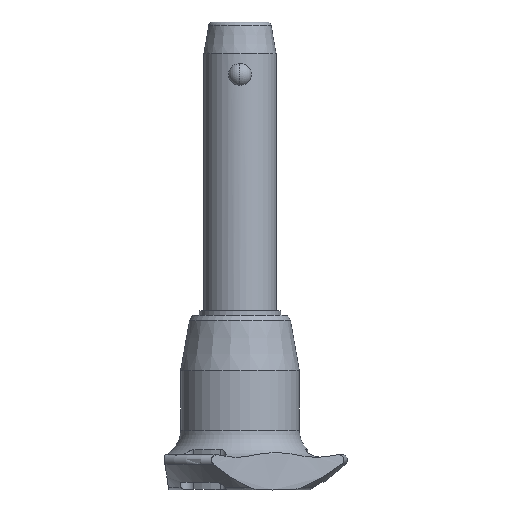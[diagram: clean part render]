
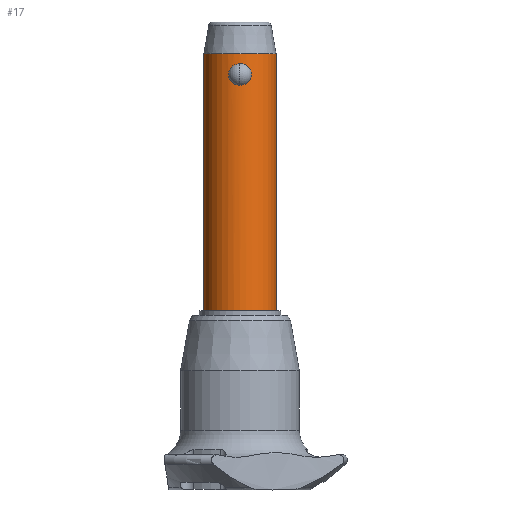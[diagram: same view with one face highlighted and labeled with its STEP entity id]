
A CAD part, front view. The second image highlights one B-rep face of the part: STEP entity #17.
In plain terms, the highlighted cylindrical face has radius 8 mm (diameter 16 mm), a partial arc.
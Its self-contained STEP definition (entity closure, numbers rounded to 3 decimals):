
#17 = ADVANCED_FACE ( 'NONE', ( #894, #85 ), #679, .T. ) ;
#63 = CARTESIAN_POINT ( 'NONE',  ( 1.105, -7.925, 0.226 ) ) ;
#75 = AXIS2_PLACEMENT_3D ( 'NONE', #742, #1890, #299 ) ;
#79 = CARTESIAN_POINT ( 'NONE',  ( 2.46, -7.613, 1.742 ) ) ;
#85 = FACE_BOUND ( 'NONE', #2105, .T. ) ;
#93 = CARTESIAN_POINT ( 'NONE',  ( 1.253, -7.903, 4.478 ) ) ;
#98 = ORIENTED_EDGE ( 'NONE', *, *, #176, .F. ) ;
#168 = DIRECTION ( 'NONE',  ( 0., 0., 1. ) ) ;
#176 = EDGE_CURVE ( 'NONE', #511, #2234, #354, .T. ) ;
#193 = CARTESIAN_POINT ( 'NONE',  ( -1.658, -7.827, 4.216 ) ) ;
#208 = CARTESIAN_POINT ( 'NONE',  ( -2.411, -7.628, 1.592 ) ) ;
#221 = CARTESIAN_POINT ( 'NONE',  ( -1.896, -7.773, 4.001 ) ) ;
#226 = DIRECTION ( 'NONE',  ( 0., 0., 1. ) ) ;
#299 = DIRECTION ( 'NONE',  ( 1., 0., 0. ) ) ;
#318 = DIRECTION ( 'NONE',  ( 1., 0., 0. ) ) ;
#328 = CARTESIAN_POINT ( 'NONE',  ( 2.004, -7.746, 0.894 ) ) ;
#338 = CARTESIAN_POINT ( 'NONE',  ( 0.326, -7.995, 4.761 ) ) ;
#354 = LINE ( 'NONE', #841, #2246 ) ;
#392 = CARTESIAN_POINT ( 'NONE',  ( -2.529, -7.59, 2.716 ) ) ;
#421 = CARTESIAN_POINT ( 'NONE',  ( -1.527, -7.854, 4.313 ) ) ;
#438 = CARTESIAN_POINT ( 'NONE',  ( -0.326, -7.995, 4.761 ) ) ;
#496 = DIRECTION ( 'NONE',  ( 1., 0., 0. ) ) ;
#511 = VERTEX_POINT ( 'NONE', #2287 ) ;
#535 = ORIENTED_EDGE ( 'NONE', *, *, #1341, .F. ) ;
#546 = CARTESIAN_POINT ( 'NONE',  ( 2.529, -7.59, 2.71 ) ) ;
#567 = EDGE_CURVE ( 'NONE', #2219, #2753, #2873, .T. ) ;
#630 = CARTESIAN_POINT ( 'NONE',  ( -2.546, -7.584, 2.553 ) ) ;
#639 = ORIENTED_EDGE ( 'NONE', *, *, #1012, .T. ) ;
#640 = CARTESIAN_POINT ( 'NONE',  ( -1.252, -7.903, 4.479 ) ) ;
#651 = CARTESIAN_POINT ( 'NONE',  ( -2.016, -7.746, 0.883 ) ) ;
#679 = CYLINDRICAL_SURFACE ( 'NONE', #750, 8. ) ;
#734 = ORIENTED_EDGE ( 'NONE', *, *, #1534, .T. ) ;
#742 = CARTESIAN_POINT ( 'NONE',  ( 0., 0., -50. ) ) ;
#750 = AXIS2_PLACEMENT_3D ( 'NONE', #1863, #2736, #318 ) ;
#770 = CARTESIAN_POINT ( 'NONE',  ( 0.804, -7.961, 4.661 ) ) ;
#783 = CARTESIAN_POINT ( 'NONE',  ( 1.894, -7.773, 0.773 ) ) ;
#786 = CARTESIAN_POINT ( 'NONE',  ( 0., -8., 0. ) ) ;
#841 = CARTESIAN_POINT ( 'NONE',  ( -8., 0., -50. ) ) ;
#856 = CARTESIAN_POINT ( 'NONE',  ( -2.547, -7.584, 2.229 ) ) ;
#882 = CARTESIAN_POINT ( 'NONE',  ( -1.107, -7.924, 4.548 ) ) ;
#891 = B_SPLINE_CURVE_WITH_KNOTS ( 'NONE', 3,
 ( #2129, #1703, #438, #2657, #1769, #882, #640, #421, #193, #221, #1742, #2198, #1111, #1524, #1064, #392, #630, #856, #1568, #2597, #208, #2186, #651, #2613, #1078, #1538, #1953, #2442, #2845, #1943 ),
 .UNSPECIFIED., .F., .F.,
 ( 4, 2, 2, 2, 2, 2, 2, 2, 2, 2, 2, 2, 2, 2, 4 ),
 ( 0., 0., 0.001, 0.001, 0.002, 0.002, 0.003, 0.003, 0.004, 0.004, 0.005, 0.006, 0.006, 0.007, 0.008 ),
 .UNSPECIFIED. ) ;
#894 = FACE_OUTER_BOUND ( 'NONE', #2407, .T. ) ;
#945 = CARTESIAN_POINT ( 'NONE',  ( 2.211, -7.69, 3.626 ) ) ;
#963 = CARTESIAN_POINT ( 'NONE',  ( 2.546, -7.584, 2.22 ) ) ;
#1012 = EDGE_CURVE ( 'NONE', #1415, #2568, #2477, .T. ) ;
#1064 = CARTESIAN_POINT ( 'NONE',  ( -2.459, -7.613, 3.036 ) ) ;
#1078 = CARTESIAN_POINT ( 'NONE',  ( -1.53, -7.854, 0.464 ) ) ;
#1111 = CARTESIAN_POINT ( 'NONE',  ( -2.276, -7.67, 3.482 ) ) ;
#1122 = CARTESIAN_POINT ( 'NONE',  ( 0.164, -8., 4.775 ) ) ;
#1137 = VECTOR ( 'NONE', #226, 1000. ) ;
#1167 = CARTESIAN_POINT ( 'NONE',  ( 1.529, -7.854, 0.463 ) ) ;
#1196 = CARTESIAN_POINT ( 'NONE',  ( 0.324, -8., 0. ) ) ;
#1218 = CIRCLE ( 'NONE', #1738, 8. ) ;
#1239 = CARTESIAN_POINT ( 'NONE',  ( -8., 0., 7. ) ) ;
#1341 = EDGE_CURVE ( 'NONE', #2753, #2219, #891, .T. ) ;
#1415 = VERTEX_POINT ( 'NONE', #2273 ) ;
#1451 = CARTESIAN_POINT ( 'NONE',  ( 2.275, -7.67, 1.291 ) ) ;
#1464 = CARTESIAN_POINT ( 'NONE',  ( 2.194, -7.694, 1.153 ) ) ;
#1524 = CARTESIAN_POINT ( 'NONE',  ( -2.408, -7.629, 3.189 ) ) ;
#1534 = EDGE_CURVE ( 'NONE', #2568, #2234, #1218, .T. ) ;
#1538 = CARTESIAN_POINT ( 'NONE',  ( -1.254, -7.902, 0.297 ) ) ;
#1568 = CARTESIAN_POINT ( 'NONE',  ( -2.529, -7.59, 2.064 ) ) ;
#1574 = CARTESIAN_POINT ( 'NONE',  ( 8., 0., -50. ) ) ;
#1641 = CARTESIAN_POINT ( 'NONE',  ( 2.016, -7.746, 3.891 ) ) ;
#1656 = CARTESIAN_POINT ( 'NONE',  ( 0., -8., 0. ) ) ;
#1675 = CARTESIAN_POINT ( 'NONE',  ( 1.657, -7.827, 0.558 ) ) ;
#1703 = CARTESIAN_POINT ( 'NONE',  ( -0.164, -8., 4.775 ) ) ;
#1738 = AXIS2_PLACEMENT_3D ( 'NONE', #2729, #2717, #496 ) ;
#1742 = CARTESIAN_POINT ( 'NONE',  ( -2.003, -7.746, 3.882 ) ) ;
#1769 = CARTESIAN_POINT ( 'NONE',  ( -0.803, -7.961, 4.661 ) ) ;
#1842 = CARTESIAN_POINT ( 'NONE',  ( 2.408, -7.629, 1.586 ) ) ;
#1858 = CARTESIAN_POINT ( 'NONE',  ( 2.461, -7.612, 3.027 ) ) ;
#1863 = CARTESIAN_POINT ( 'NONE',  ( 0., 0., -50. ) ) ;
#1890 = DIRECTION ( 'NONE',  ( 0., 0., -1. ) ) ;
#1899 = CARTESIAN_POINT ( 'NONE',  ( 1.252, -7.903, 0.296 ) ) ;
#1906 = ORIENTED_EDGE ( 'NONE', *, *, #2117, .F. ) ;
#1933 = CIRCLE ( 'NONE', #75, 8. ) ;
#1943 = CARTESIAN_POINT ( 'NONE',  ( 0., -8., 0. ) ) ;
#1953 = CARTESIAN_POINT ( 'NONE',  ( -1.106, -7.925, 0.226 ) ) ;
#2088 = CARTESIAN_POINT ( 'NONE',  ( 1.529, -7.854, 4.312 ) ) ;
#2105 = EDGE_LOOP ( 'NONE', ( #535, #2690 ) ) ;
#2117 = EDGE_CURVE ( 'NONE', #1415, #511, #1933, .T. ) ;
#2129 = CARTESIAN_POINT ( 'NONE',  ( 0., -8., 4.775 ) ) ;
#2143 = CARTESIAN_POINT ( 'NONE',  ( 0., -8., 4.775 ) ) ;
#2186 = CARTESIAN_POINT ( 'NONE',  ( -2.211, -7.69, 1.148 ) ) ;
#2198 = CARTESIAN_POINT ( 'NONE',  ( -2.193, -7.694, 3.623 ) ) ;
#2219 = VERTEX_POINT ( 'NONE', #786 ) ;
#2224 = CARTESIAN_POINT ( 'NONE',  ( 8., 0., 7. ) ) ;
#2234 = VERTEX_POINT ( 'NONE', #1239 ) ;
#2246 = VECTOR ( 'NONE', #168, 1000. ) ;
#2273 = CARTESIAN_POINT ( 'NONE',  ( 8., 0., -50. ) ) ;
#2287 = CARTESIAN_POINT ( 'NONE',  ( -8., 0., -50. ) ) ;
#2315 = CARTESIAN_POINT ( 'NONE',  ( 2.547, -7.584, 2.549 ) ) ;
#2327 = CARTESIAN_POINT ( 'NONE',  ( 0.645, -7.976, 4.704 ) ) ;
#2339 = CARTESIAN_POINT ( 'NONE',  ( 2.41, -7.629, 3.184 ) ) ;
#2407 = EDGE_LOOP ( 'NONE', ( #98, #1906, #639, #734 ) ) ;
#2437 = CARTESIAN_POINT ( 'NONE',  ( 0., -8., 4.775 ) ) ;
#2442 = CARTESIAN_POINT ( 'NONE',  ( -0.652, -7.979, 0.058 ) ) ;
#2477 = LINE ( 'NONE', #1574, #1137 ) ;
#2510 = CARTESIAN_POINT ( 'NONE',  ( 1.66, -7.827, 4.215 ) ) ;
#2526 = CARTESIAN_POINT ( 'NONE',  ( 0.652, -7.979, 0.058 ) ) ;
#2568 = VERTEX_POINT ( 'NONE', #2224 ) ;
#2597 = CARTESIAN_POINT ( 'NONE',  ( -2.461, -7.612, 1.746 ) ) ;
#2613 = CARTESIAN_POINT ( 'NONE',  ( -1.659, -7.827, 0.559 ) ) ;
#2657 = CARTESIAN_POINT ( 'NONE',  ( -0.645, -7.976, 4.704 ) ) ;
#2690 = ORIENTED_EDGE ( 'NONE', *, *, #567, .F. ) ;
#2717 = DIRECTION ( 'NONE',  ( 0., 0., -1. ) ) ;
#2729 = CARTESIAN_POINT ( 'NONE',  ( 0., 0., 7. ) ) ;
#2730 = CARTESIAN_POINT ( 'NONE',  ( 2.528, -7.59, 2.058 ) ) ;
#2736 = DIRECTION ( 'NONE',  ( 0., 0., 1. ) ) ;
#2753 = VERTEX_POINT ( 'NONE', #2143 ) ;
#2759 = CARTESIAN_POINT ( 'NONE',  ( 1.108, -7.924, 4.548 ) ) ;
#2845 = CARTESIAN_POINT ( 'NONE',  ( -0.324, -8., 0. ) ) ;
#2873 = B_SPLINE_CURVE_WITH_KNOTS ( 'NONE', 3,
 ( #1656, #1196, #2526, #63, #1899, #1167, #1675, #783, #328, #1464, #1451, #1842, #79, #2730, #963, #2315, #546, #1858, #2339, #945, #1641, #2510, #2088, #93, #2759, #770, #2327, #338, #1122, #2437 ),
 .UNSPECIFIED., .F., .F.,
 ( 4, 2, 2, 2, 2, 2, 2, 2, 2, 2, 2, 2, 2, 2, 4 ),
 ( 0.008, 0.009, 0.009, 0.01, 0.01, 0.011, 0.011, 0.012, 0.012, 0.013, 0.014, 0.014, 0.015, 0.015, 0.016 ),
 .UNSPECIFIED. ) ;
